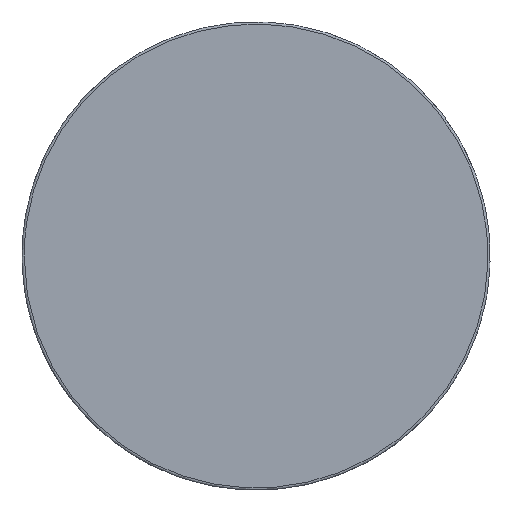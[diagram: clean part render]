
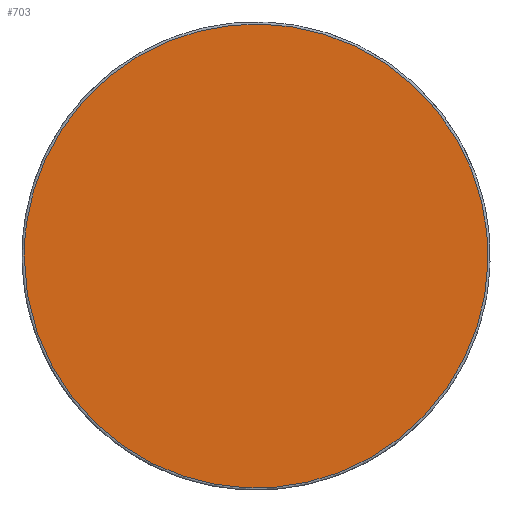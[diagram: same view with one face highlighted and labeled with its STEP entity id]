
A CAD part, top view. The second image highlights one B-rep face of the part: STEP entity #703.
In plain terms, the highlighted planar face has unit normal (0, 0, 1).
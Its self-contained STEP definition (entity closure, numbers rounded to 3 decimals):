
#703=ADVANCED_FACE('',(#895),#3310,.T.);
#895=FACE_OUTER_BOUND('',#1087,.T.);
#1087=EDGE_LOOP('',(#1279));
#1279=ORIENTED_EDGE('',*,*,#2376,.T.);
#2376=EDGE_CURVE('',#2929,#2929,#2927,.T.);
#2927=(
BOUNDED_CURVE()
B_SPLINE_CURVE(2,(#3675,#3676,#3677,#3678,#3679,#3680,#3681,#3682,#3683),
 .UNSPECIFIED.,.T.,.F.)
B_SPLINE_CURVE_WITH_KNOTS((3,2,2,2,3),(0.,1244.856,2489.712,
3734.568,4979.424),.UNSPECIFIED.)
CURVE()
GEOMETRIC_REPRESENTATION_ITEM()
RATIONAL_B_SPLINE_CURVE((1.,0.707,1.,0.707,1.,0.707,
1.,0.707,1.))
REPRESENTATION_ITEM('')
);
#2929=VERTEX_POINT('',#3649);
#3310=PLANE('',#3460);
#3460=AXIS2_PLACEMENT_3D('',#3593,#3526,$);
#3526=DIRECTION('',(0.,0.,1.));
#3593=CARTESIAN_POINT('',(6560.137,-1139.237,750.065));
#3649=CARTESIAN_POINT('',(6767.637,-139.237,750.065));
#3675=CARTESIAN_POINT('',(6767.637,-139.237,750.065));
#3676=CARTESIAN_POINT('',(6767.637,-931.737,750.065));
#3677=CARTESIAN_POINT('',(7560.137,-931.737,750.065));
#3678=CARTESIAN_POINT('',(8352.637,-931.737,750.065));
#3679=CARTESIAN_POINT('',(8352.637,-139.237,750.065));
#3680=CARTESIAN_POINT('',(8352.637,653.263,750.065));
#3681=CARTESIAN_POINT('',(7560.137,653.263,750.065));
#3682=CARTESIAN_POINT('',(6767.637,653.263,750.065));
#3683=CARTESIAN_POINT('',(6767.637,-139.237,750.065));
